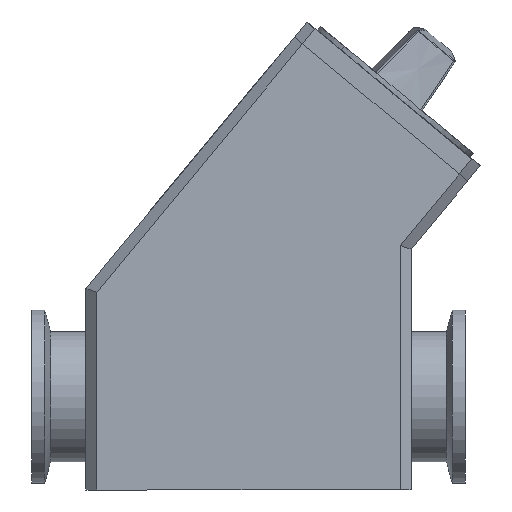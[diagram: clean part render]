
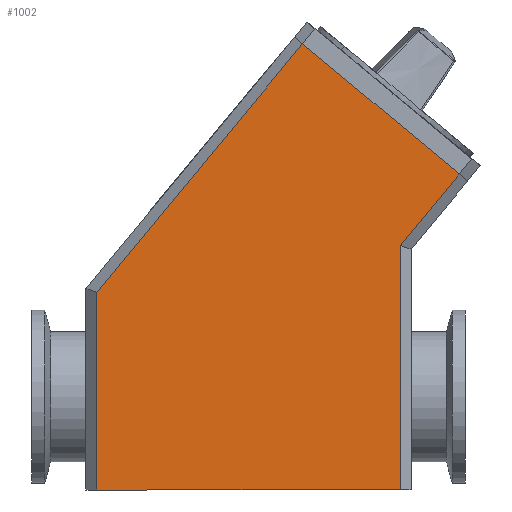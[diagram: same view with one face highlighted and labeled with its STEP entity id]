
A CAD part, front view. The second image highlights one B-rep face of the part: STEP entity #1002.
In plain terms, the highlighted planar face has unit normal (0, -1, 0).
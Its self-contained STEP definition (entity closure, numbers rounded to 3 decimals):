
#93 = VERTEX_POINT ( 'NONE', #7877 ) ;
#346 = CARTESIAN_POINT ( 'NONE',  ( -38.838, -12.019, 44.905 ) ) ;
#912 = EDGE_CURVE ( 'NONE', #3386, #6590, #7321, .T. ) ;
#921 = LINE ( 'NONE', #7484, #19529 ) ;
#1002 = ADVANCED_FACE ( 'NONE', ( #16842 ), #2025, .T. ) ;
#1126 = VERTEX_POINT ( 'NONE', #20394 ) ;
#1916 = EDGE_CURVE ( 'NONE', #12849, #3140, #16038, .T. ) ;
#2025 = PLANE ( 'NONE',  #5905 ) ;
#2034 = EDGE_CURVE ( 'NONE', #1126, #93, #3575, .T. ) ;
#3140 = VERTEX_POINT ( 'NONE', #9879 ) ;
#3377 = ORIENTED_EDGE ( 'NONE', *, *, #2034, .T. ) ;
#3386 = VERTEX_POINT ( 'NONE', #5037 ) ;
#3575 = LINE ( 'NONE', #346, #9021 ) ;
#3640 = CARTESIAN_POINT ( 'NONE',  ( -38.263, -12.019, 1.5 ) ) ;
#3683 = CARTESIAN_POINT ( 'NONE',  ( 31.737, -12.019, 0. ) ) ;
#3845 = VECTOR ( 'NONE', #11807, 1000. ) ;
#4087 = CARTESIAN_POINT ( 'NONE',  ( 45.395, -12.019, 72.879 ) ) ;
#4341 = EDGE_CURVE ( 'NONE', #93, #3140, #6854, .T. ) ;
#4630 = VECTOR ( 'NONE', #14322, 1000. ) ;
#5037 = CARTESIAN_POINT ( 'NONE',  ( 31.737, -12.019, 56.401 ) ) ;
#5464 = CARTESIAN_POINT ( 'NONE',  ( -3.263, -12.019, 51. ) ) ;
#5466 = EDGE_CURVE ( 'NONE', #12849, #3386, #921, .T. ) ;
#5905 = AXIS2_PLACEMENT_3D ( 'NONE', #5464, #16629, #14922 ) ;
#6425 = EDGE_LOOP ( 'NONE', ( #15859, #20286, #9686, #12963, #13454, #3377 ) ) ;
#6590 = VERTEX_POINT ( 'NONE', #17118 ) ;
#6609 = VECTOR ( 'NONE', #14289, 1000. ) ;
#6854 = LINE ( 'NONE', #3640, #3845 ) ;
#7321 = LINE ( 'NONE', #4087, #6609 ) ;
#7484 = CARTESIAN_POINT ( 'NONE',  ( 31.737, -12.019, 55.5 ) ) ;
#7877 = CARTESIAN_POINT ( 'NONE',  ( -38.263, -12.019, 45.599 ) ) ;
#9021 = VECTOR ( 'NONE', #13459, 1000. ) ;
#9591 = CARTESIAN_POINT ( 'NONE',  ( 7.284, -12.019, 104.467 ) ) ;
#9686 = ORIENTED_EDGE ( 'NONE', *, *, #5466, .T. ) ;
#9879 = CARTESIAN_POINT ( 'NONE',  ( -38.263, -12.019, 0. ) ) ;
#11807 = DIRECTION ( 'NONE',  ( 0., 0., -1. ) ) ;
#12849 = VERTEX_POINT ( 'NONE', #3683 ) ;
#12963 = ORIENTED_EDGE ( 'NONE', *, *, #912, .T. ) ;
#13454 = ORIENTED_EDGE ( 'NONE', *, *, #19927, .F. ) ;
#13459 = DIRECTION ( 'NONE',  ( -0.638, 0., -0.77 ) ) ;
#13833 = VECTOR ( 'NONE', #19153, 1000. ) ;
#14289 = DIRECTION ( 'NONE',  ( 0.638, 0., 0.77 ) ) ;
#14322 = DIRECTION ( 'NONE',  ( 0.77, 0., -0.638 ) ) ;
#14922 = DIRECTION ( 'NONE',  ( 1., 0., 0. ) ) ;
#15859 = ORIENTED_EDGE ( 'NONE', *, *, #4341, .T. ) ;
#16038 = LINE ( 'NONE', #21196, #13833 ) ;
#16629 = DIRECTION ( 'NONE',  ( 0., -1., 0. ) ) ;
#16842 = FACE_OUTER_BOUND ( 'NONE', #6425, .T. ) ;
#17118 = CARTESIAN_POINT ( 'NONE',  ( 45.395, -12.019, 72.879 ) ) ;
#18964 = DIRECTION ( 'NONE',  ( 0., 0., 1. ) ) ;
#19153 = DIRECTION ( 'NONE',  ( -1., 0., 0. ) ) ;
#19529 = VECTOR ( 'NONE', #18964, 1000. ) ;
#19927 = EDGE_CURVE ( 'NONE', #1126, #6590, #21096, .T. ) ;
#20286 = ORIENTED_EDGE ( 'NONE', *, *, #1916, .F. ) ;
#20394 = CARTESIAN_POINT ( 'NONE',  ( 9.209, -12.019, 102.872 ) ) ;
#21096 = LINE ( 'NONE', #9591, #4630 ) ;
#21196 = CARTESIAN_POINT ( 'NONE',  ( 31.737, -12.019, 0. ) ) ;
